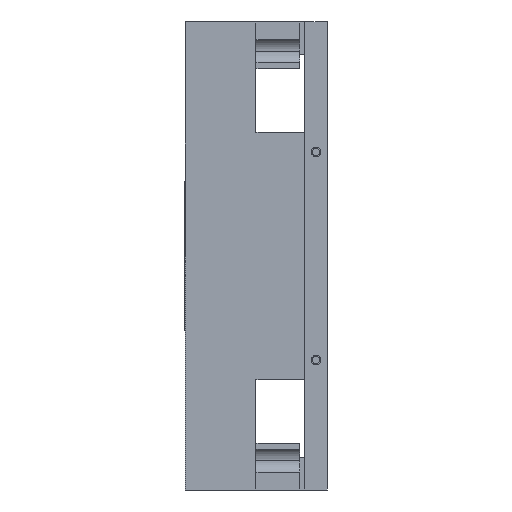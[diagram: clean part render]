
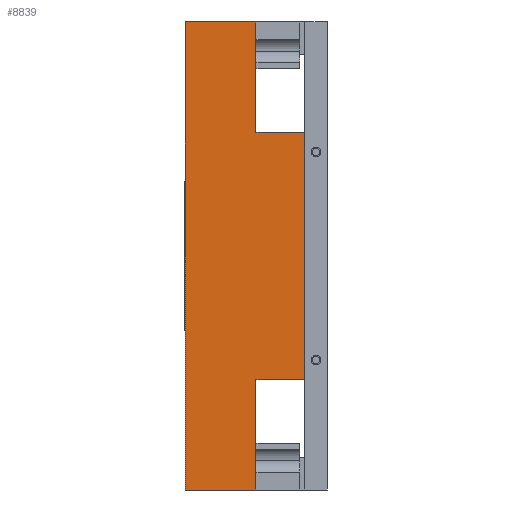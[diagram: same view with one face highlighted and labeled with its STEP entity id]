
A CAD part, left-side view. The second image highlights one B-rep face of the part: STEP entity #8839.
In plain terms, the highlighted planar face has unit normal (-1, 0, 0).
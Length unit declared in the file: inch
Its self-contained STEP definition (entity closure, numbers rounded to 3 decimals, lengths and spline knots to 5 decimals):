
#6030=DIRECTION('',(0.,-1.,0.));
#6031=VECTOR('',#6030,1.187);
#6032=CARTESIAN_POINT('',(-3.937,1.927,-3.937));
#6033=LINE('',#6032,#6031);
#6324=DIRECTION('',(0.,-1.,0.));
#6325=VECTOR('',#6324,1.187);
#6326=CARTESIAN_POINT('',(-3.937,1.927,3.937));
#6327=LINE('',#6326,#6325);
#6642=DIRECTION('',(0.,-1.,0.));
#6643=VECTOR('',#6642,0.8227);
#6644=CARTESIAN_POINT('',(-3.937,0.74,-2.08));
#6645=LINE('',#6644,#6643);
#6646=DIRECTION('',(0.,-1.,0.));
#6647=VECTOR('',#6646,0.8227);
#6648=CARTESIAN_POINT('',(-3.937,0.74,2.08));
#6649=LINE('',#6648,#6647);
#6650=DIRECTION('',(0.,0.,1.));
#6651=VECTOR('',#6650,7.874);
#6652=CARTESIAN_POINT('',(-3.937,1.927,-3.937));
#6653=LINE('',#6652,#6651);
#6741=DIRECTION('',(0.,0.,1.));
#6742=VECTOR('',#6741,1.857);
#6743=CARTESIAN_POINT('',(-3.937,0.74,2.08));
#6744=LINE('',#6743,#6742);
#7039=DIRECTION('',(0.,0.,1.));
#7040=VECTOR('',#7039,1.857);
#7041=CARTESIAN_POINT('',(-3.937,0.74,-3.937));
#7042=LINE('',#7041,#7040);
#7148=DIRECTION('',(0.,0.,-1.));
#7149=VECTOR('',#7148,4.16);
#7150=CARTESIAN_POINT('',(-3.937,-0.0827,2.08));
#7151=LINE('',#7150,#7149);
#7685=CARTESIAN_POINT('',(-3.937,1.927,-3.937));
#7687=VERTEX_POINT('',#7685);
#7689=CARTESIAN_POINT('',(-3.937,1.927,3.937));
#7691=VERTEX_POINT('',#7689);
#7712=CARTESIAN_POINT('',(-3.937,0.74,3.937));
#7713=VERTEX_POINT('',#7712);
#7718=CARTESIAN_POINT('',(-3.937,0.74,-3.937));
#7719=VERTEX_POINT('',#7718);
#7730=CARTESIAN_POINT('',(-3.937,0.74,2.08));
#7731=VERTEX_POINT('',#7730);
#7742=CARTESIAN_POINT('',(-3.937,0.74,-2.08));
#7743=VERTEX_POINT('',#7742);
#8021=CARTESIAN_POINT('',(-3.937,-0.0827,2.08));
#8023=VERTEX_POINT('',#8021);
#8024=CARTESIAN_POINT('',(-3.937,-0.0827,-2.08));
#8025=VERTEX_POINT('',#8024);
#8820=CARTESIAN_POINT('',(-3.937,1.927,-3.937));
#8821=DIRECTION('',(-1.,0.,0.));
#8822=DIRECTION('',(0.,-1.,0.));
#8823=AXIS2_PLACEMENT_3D('',#8820,#8821,#8822);
#8824=PLANE('',#8823);
#8826=ORIENTED_EDGE('',*,*,#8825,.T.);
#8828=ORIENTED_EDGE('',*,*,#8827,.T.);
#8829=ORIENTED_EDGE('',*,*,#8802,.F.);
#8831=ORIENTED_EDGE('',*,*,#8830,.F.);
#8832=ORIENTED_EDGE('',*,*,#8209,.F.);
#8833=ORIENTED_EDGE('',*,*,#8602,.T.);
#8834=ORIENTED_EDGE('',*,*,#8527,.T.);
#8836=ORIENTED_EDGE('',*,*,#8835,.F.);
#8837=EDGE_LOOP('',(#8826,#8828,#8829,#8831,#8832,#8833,#8834,#8836));
#8838=FACE_OUTER_BOUND('',#8837,.F.);
#8839=ADVANCED_FACE('',(#8838),#8824,.T.);
#8209=EDGE_CURVE('',#7687,#7719,#6033,.T.);
#8527=EDGE_CURVE('',#7691,#7713,#6327,.T.);
#8602=EDGE_CURVE('',#7687,#7691,#6653,.T.);
#8802=EDGE_CURVE('',#7743,#8025,#6645,.T.);
#8825=EDGE_CURVE('',#7731,#8023,#6649,.T.);
#8827=EDGE_CURVE('',#8023,#8025,#7151,.T.);
#8830=EDGE_CURVE('',#7719,#7743,#7042,.T.);
#8835=EDGE_CURVE('',#7731,#7713,#6744,.T.);
